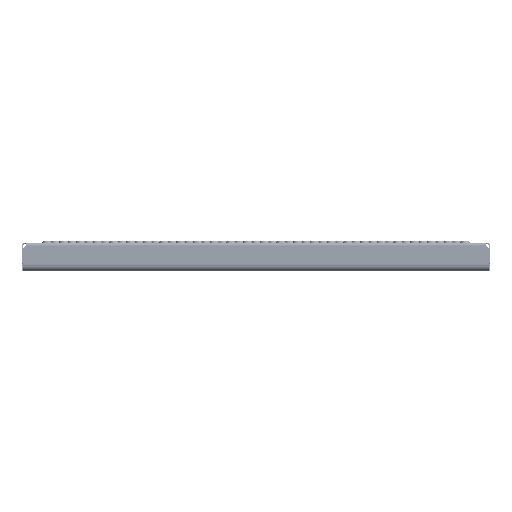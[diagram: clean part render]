
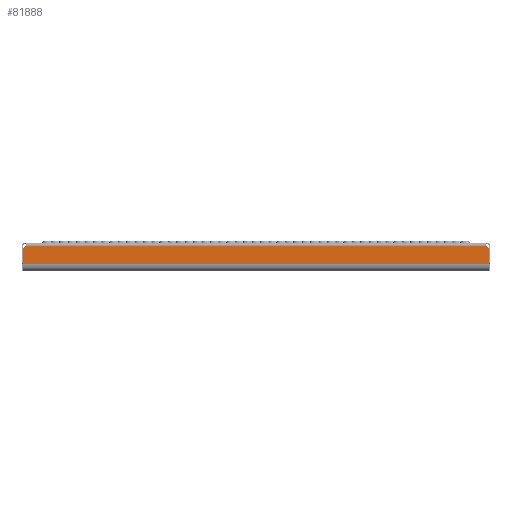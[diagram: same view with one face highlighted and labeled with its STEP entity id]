
A CAD part, top view. The second image highlights one B-rep face of the part: STEP entity #81888.
In plain terms, the highlighted planar face has unit normal (0, 0, 1).
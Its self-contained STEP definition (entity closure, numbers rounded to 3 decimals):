
#719 = VECTOR ( 'NONE', #136023, 1000. ) ;
#2359 = ORIENTED_EDGE ( 'NONE', *, *, #161889, .F. ) ;
#2621 = AXIS2_PLACEMENT_3D ( 'NONE', #95085, #78641, #109725 ) ;
#4528 = ORIENTED_EDGE ( 'NONE', *, *, #116370, .T. ) ;
#6903 = VERTEX_POINT ( 'NONE', #30658 ) ;
#10407 = CARTESIAN_POINT ( 'NONE',  ( -344.302, -4., 75. ) ) ;
#12457 = AXIS2_PLACEMENT_3D ( 'NONE', #55217, #111107, #111965 ) ;
#13577 = CIRCLE ( 'NONE', #127727, 5. ) ;
#13894 = VERTEX_POINT ( 'NONE', #104312 ) ;
#23305 = CARTESIAN_POINT ( 'NONE',  ( 347.99, -31.998, 75. ) ) ;
#25860 = ORIENTED_EDGE ( 'NONE', *, *, #95798, .T. ) ;
#29409 = VECTOR ( 'NONE', #90121, 1000. ) ;
#30658 = CARTESIAN_POINT ( 'NONE',  ( -347.99, -31.998, 75. ) ) ;
#31906 = DIRECTION ( 'NONE',  ( 0., 1., 0. ) ) ;
#34721 = CARTESIAN_POINT ( 'NONE',  ( 349., -2.288, 75. ) ) ;
#35491 = ORIENTED_EDGE ( 'NONE', *, *, #153101, .T. ) ;
#42552 = VERTEX_POINT ( 'NONE', #10407 ) ;
#52703 = CARTESIAN_POINT ( 'NONE',  ( -347.99, -7.185, 75. ) ) ;
#55217 = CARTESIAN_POINT ( 'NONE',  ( -349., -2.288, 75. ) ) ;
#58700 = VERTEX_POINT ( 'NONE', #23305 ) ;
#63673 = DIRECTION ( 'NONE',  ( 1., 0., 0. ) ) ;
#63997 = DIRECTION ( 'NONE',  ( 0., 0., -1. ) ) ;
#65455 = LINE ( 'NONE', #162565, #165325 ) ;
#66476 = LINE ( 'NONE', #52703, #719 ) ;
#77572 = EDGE_CURVE ( 'NONE', #13894, #6903, #66476, .T. ) ;
#78641 = DIRECTION ( 'NONE',  ( 0., 0., 1. ) ) ;
#79522 = FACE_OUTER_BOUND ( 'NONE', #106199, .T. ) ;
#79729 = CIRCLE ( 'NONE', #12457, 5. ) ;
#81888 = ADVANCED_FACE ( 'NONE', ( #79522 ), #121706, .T. ) ;
#90121 = DIRECTION ( 'NONE',  ( 1., 0., 0. ) ) ;
#95085 = CARTESIAN_POINT ( 'NONE',  ( -349., 145.712, 75. ) ) ;
#95798 = EDGE_CURVE ( 'NONE', #58700, #172055, #128071, .T. ) ;
#97140 = CARTESIAN_POINT ( 'NONE',  ( 344.302, -4., 75. ) ) ;
#101550 = DIRECTION ( 'NONE',  ( 0., -1., 0. ) ) ;
#104312 = CARTESIAN_POINT ( 'NONE',  ( -347.99, -7.185, 75. ) ) ;
#106199 = EDGE_LOOP ( 'NONE', ( #4528, #25860, #35491, #2359, #110389, #171406 ) ) ;
#107793 = EDGE_CURVE ( 'NONE', #42552, #13894, #79729, .T. ) ;
#109725 = DIRECTION ( 'NONE',  ( 0., -1., 0. ) ) ;
#110389 = ORIENTED_EDGE ( 'NONE', *, *, #107793, .T. ) ;
#111107 = DIRECTION ( 'NONE',  ( 0., 0., -1. ) ) ;
#111965 = DIRECTION ( 'NONE',  ( 0., -1., 0. ) ) ;
#112975 = VERTEX_POINT ( 'NONE', #97140 ) ;
#116370 = EDGE_CURVE ( 'NONE', #6903, #58700, #65455, .T. ) ;
#117025 = CARTESIAN_POINT ( 'NONE',  ( 347.99, -7.185, 75. ) ) ;
#117606 = LINE ( 'NONE', #134037, #29409 ) ;
#121706 = PLANE ( 'NONE',  #2621 ) ;
#127727 = AXIS2_PLACEMENT_3D ( 'NONE', #34721, #63997, #101550 ) ;
#128071 = LINE ( 'NONE', #117025, #130394 ) ;
#130394 = VECTOR ( 'NONE', #31906, 1000. ) ;
#134037 = CARTESIAN_POINT ( 'NONE',  ( -349., -4., 75. ) ) ;
#136023 = DIRECTION ( 'NONE',  ( 0., -1., 0. ) ) ;
#153101 = EDGE_CURVE ( 'NONE', #172055, #112975, #13577, .T. ) ;
#161889 = EDGE_CURVE ( 'NONE', #42552, #112975, #117606, .T. ) ;
#162565 = CARTESIAN_POINT ( 'NONE',  ( -347.99, -31.998, 75. ) ) ;
#165325 = VECTOR ( 'NONE', #63673, 1000. ) ;
#171406 = ORIENTED_EDGE ( 'NONE', *, *, #77572, .T. ) ;
#172055 = VERTEX_POINT ( 'NONE', #174845 ) ;
#174845 = CARTESIAN_POINT ( 'NONE',  ( 347.99, -7.185, 75. ) ) ;
